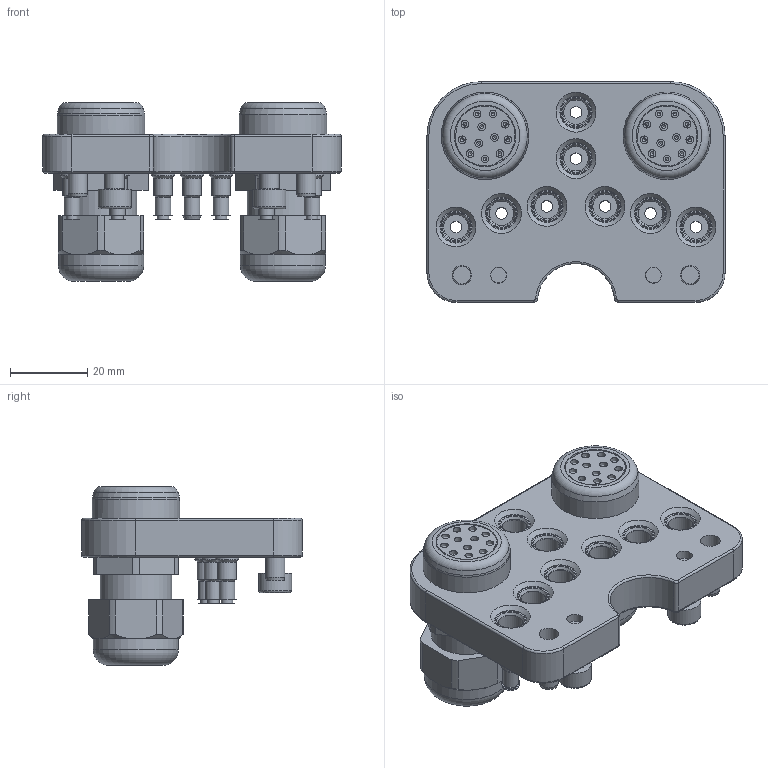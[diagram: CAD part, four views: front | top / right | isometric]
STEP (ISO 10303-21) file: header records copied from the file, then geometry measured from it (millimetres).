
FILE_DESCRIPTION(/* description */ (''),/* implementation_level */ '2;1');
FILE_NAME(/* name */ '\\dc01\daten\CAD\Standard\Daten\3D-Datenbank\Webseite 2020\MGW\MGW160\G-MEK160-U-8Pk4-2E12.stp',/* time_stamp */ '2020-04-29T11:48:55+02:00',/* author */ ('Splieth'),/* organization */ (''),/* preprocessor_version */ 'ST-DEVELOPER v17',/* originating_system */ 'Autodesk Inventor 2018',/* authorisation */ '');
FILE_SCHEMA (('AUTOMOTIVE_DESIGN { 1 0 10303 214 3 1 1 }'));
Length unit declared in the file: millimetre
Products named in the file (1): G-MEK160-U-8Pk4-2E12
Bounding box: 77 x 57 x 46.2 mm (x, y, z)
Volume: 59504.2 mm3; surface area: 37387.2 mm2
Topology: 41 solids, 41 shells, 765 faces, 2094 edges, 1463 vertices
Faces by surface type: cylinder 303, plane 297, cone 126, torus 35, bspline 4
Full cylindrical faces by diameter (mm): 1 x24, 1.6 x24, 2 x50, 2.013 x4, 2.7 x24, 3 x8, 4 x8, 4.134 x2, 4.8 x8, 5 x4, 5.02 x2, 5.5 x8, 5.9 x8, 6 x8, 6.3 x8, 8 x8, 8.3 x8, 8.5 x2, 10 x2, 14 x2, 15.9 x2, 17.1 x2, 18.1 x2, 18.5 x2, 22 x2, 22.6 x2
Entity records: 27083 total; most frequent: CARTESIAN_POINT 5746, DIRECTION 4609, ORIENTED_EDGE 4080, EDGE_CURVE 2040, AXIS2_PLACEMENT_3D 1904, VERTEX_POINT 1463, CIRCLE 1142, EDGE_LOOP 971
